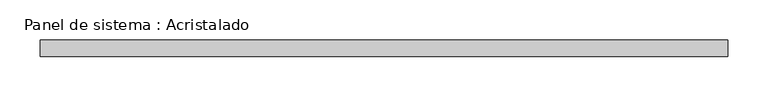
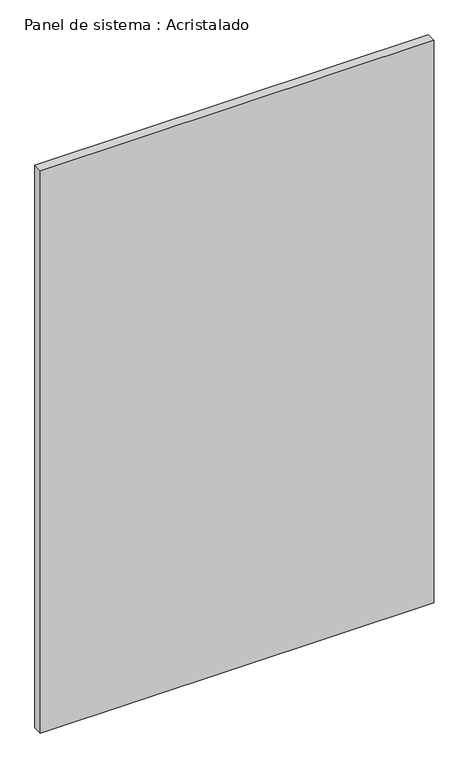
"""IFC4 building model written with IfcOpenShell, lengths in millimetres: plate geometry, Panel de sistema : Acristalado."""

from ifc_helpers import new_model, si_unit, origin, origin_with_axes, place, context, project, spatial, polyline, outline, extrude, source, transform, mapped, element, save


def panel_de_sistema_acristalado_dd13b50f(model_context):
    return source(origin(), model_context, "Body", "SweptSolid", [
        extrude(outline(polyline([(425.0, -10.0), (-425.0, -10.0), (-425.0, 10.0), (425.0, 10.0), (425.0, -10.0)])), origin_with_axes(), (0.0, 0.0, 1.0), 1285.0),
    ])


if __name__ == "__main__":
    model = new_model("IFC4")
    model_context = context("Model", 3, world=origin())
    ifc_project = project(units=[si_unit("LENGTHUNIT", "METRE", prefix="MILLI")], contexts=[model_context])
    site = spatial("IfcSite", under=ifc_project)
    building = spatial("IfcBuilding", under=site)
    placement = place(None, origin())
    panel_de_sistema_acristalado_shape = panel_de_sistema_acristalado_dd13b50f(model_context)
    element("IfcPlate", 1, ObjectType="Panel de sistema : Acristalado", at=placement, inside=building, context=model_context, shape_type="MappedRepresentation", body=[
        mapped(panel_de_sistema_acristalado_shape, transform((0.0, 0.0, 0.0), x_axis=(1.0, 0.0, 0.0), y_axis=(0.0, 1.0, 0.0), z_axis=(0.0, 0.0, 1.0))),
    ])
    save(model, "model.ifc")
